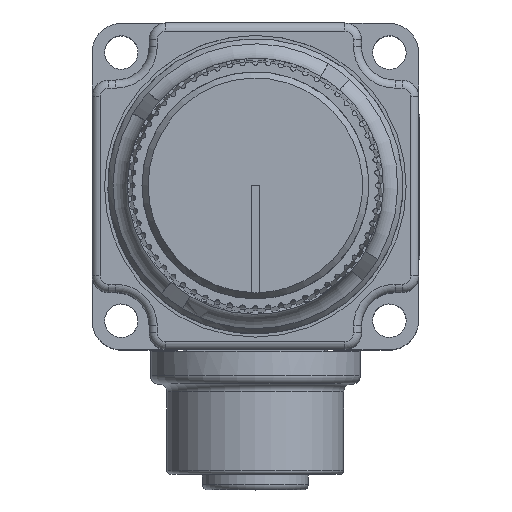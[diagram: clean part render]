
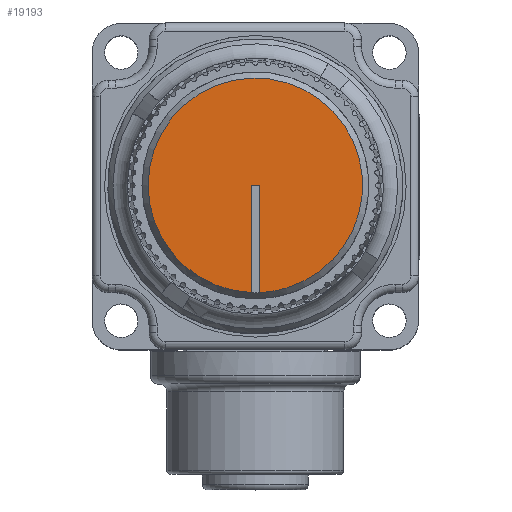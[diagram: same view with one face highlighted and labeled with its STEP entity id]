
A CAD part, top view. The second image highlights one B-rep face of the part: STEP entity #19193.
In plain terms, the highlighted planar face has unit normal (0, 0, 1).
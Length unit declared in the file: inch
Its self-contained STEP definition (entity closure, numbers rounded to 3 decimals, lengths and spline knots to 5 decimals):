
#965=PLANE('',#20820);
#1806=FACE_OUTER_BOUND('',#2924,.T.);
#2924=EDGE_LOOP('',(#15148,#15149,#15150,#15151,#15152));
#3801=CIRCLE('',#20821,0.4);
#3802=CIRCLE('',#20822,0.4);
#5369=LINE('',#32834,#6728);
#5370=LINE('',#32840,#6729);
#5371=LINE('',#32841,#6730);
#6728=VECTOR('',#24991,0.3937);
#6729=VECTOR('',#24996,0.3937);
#6730=VECTOR('',#24997,0.3937);
#8311=VERTEX_POINT('',#32832);
#8312=VERTEX_POINT('',#32833);
#8313=VERTEX_POINT('',#32835);
#8314=VERTEX_POINT('',#32837);
#8315=VERTEX_POINT('',#32839);
#10699=EDGE_CURVE('',#8311,#8312,#5369,.T.);
#10700=EDGE_CURVE('',#8312,#8313,#3801,.T.);
#10701=EDGE_CURVE('',#8313,#8314,#3802,.T.);
#10702=EDGE_CURVE('',#8314,#8315,#5370,.T.);
#10703=EDGE_CURVE('',#8315,#8311,#5371,.T.);
#15148=ORIENTED_EDGE('',*,*,#10699,.T.);
#15149=ORIENTED_EDGE('',*,*,#10700,.T.);
#15150=ORIENTED_EDGE('',*,*,#10701,.T.);
#15151=ORIENTED_EDGE('',*,*,#10702,.T.);
#15152=ORIENTED_EDGE('',*,*,#10703,.T.);
#19193=ADVANCED_FACE('',(#1806),#965,.T.);
#20820=AXIS2_PLACEMENT_3D('',#32831,#24989,#24990);
#20821=AXIS2_PLACEMENT_3D('',#32836,#24992,#24993);
#20822=AXIS2_PLACEMENT_3D('',#32838,#24994,#24995);
#24989=DIRECTION('center_axis',(0.,0.,1.));
#24990=DIRECTION('ref_axis',(1.,0.,0.));
#24991=DIRECTION('',(0.,-1.,0.));
#24992=DIRECTION('center_axis',(0.,0.,
1.));
#24993=DIRECTION('ref_axis',(0.325,0.946,0.));
#24994=DIRECTION('center_axis',(0.,0.,
1.));
#24995=DIRECTION('ref_axis',(0.325,0.946,0.));
#24996=DIRECTION('',(0.,1.,0.));
#24997=DIRECTION('',(1.,0.,0.));
#32831=CARTESIAN_POINT('Origin',(-0.70268,-0.23586,1.82375));
#32832=CARTESIAN_POINT('',(-0.68768,0.16425,1.82375));
#32833=CARTESIAN_POINT('',(-0.68768,-0.23547,1.82375));
#32834=CARTESIAN_POINT('',(-0.68768,0.16425,1.82375));
#32835=CARTESIAN_POINT('',(-0.5885,-0.21911,1.82375));
#32836=CARTESIAN_POINT('Origin',(-0.70268,0.16425,1.82375));
#32837=CARTESIAN_POINT('',(-0.71768,-0.23547,1.82375));
#32838=CARTESIAN_POINT('Origin',(-0.70268,0.16425,1.82375));
#32839=CARTESIAN_POINT('',(-0.71768,0.16425,1.82375));
#32840=CARTESIAN_POINT('',(-0.71768,-0.23547,1.82375));
#32841=CARTESIAN_POINT('',(-0.71768,0.16425,1.82375));
